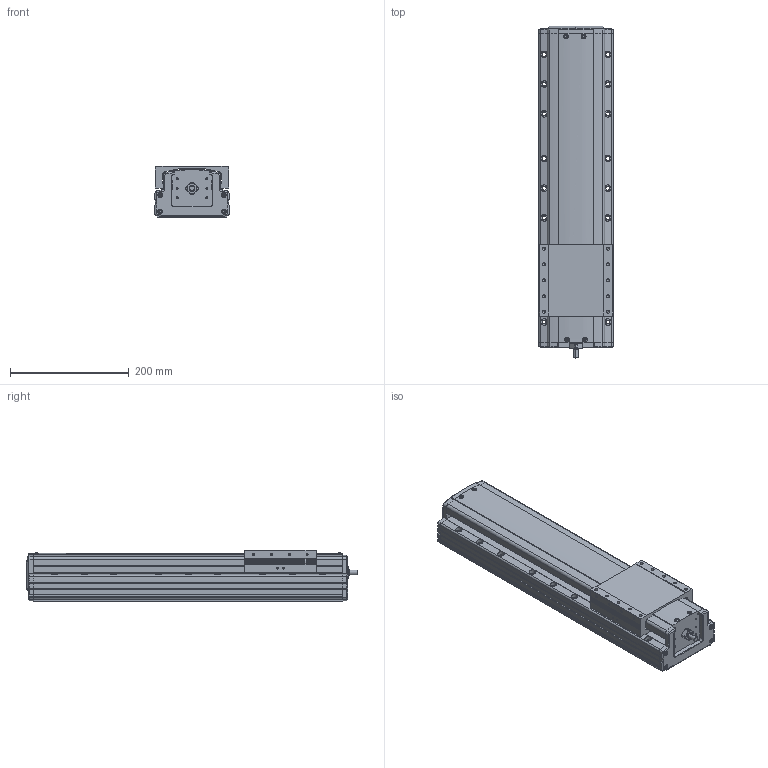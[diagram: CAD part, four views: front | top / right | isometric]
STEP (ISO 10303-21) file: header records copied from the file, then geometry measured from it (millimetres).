
FILE_DESCRIPTION(('STEP AP214'),'1');
FILE_NAME('Z:/Web/3D/PSA125/STP/PSA125-300 (3D)/PSA125ㅁㅁ-300.stp','2014-06-22T23:31:23',(' '),(' '),'Spatial InterOp 3D',' ',' ');
FILE_SCHEMA(('automotive_design'));
Length unit declared in the file: millimetre
Products named in the file (18): 스크루 : Round - M4.0 x 10.0; RRCV-PA120; SLIDE; BASE; FRCV-PA120-1(기준 뿔 제거); RR1500; 스크루 : Round - M4.0 x 6.0; 너트 : Square - M10.0 x 220.7419
Bounding box: 125 x 558.1 x 86 mm (x, y, z)
Volume: 4560798.6 mm3; surface area: 411084.2 mm2
Topology: 18 solids, 18 shells, 1846 faces, 4981 edges, 3174 vertices
Faces by surface type: plane 1010, cylinder 552, cone 196, sphere 32, bspline 31, torus 25
Entity records: 74355 total; most frequent: CARTESIAN_POINT 12679, DIRECTION 9755, ORIENTED_EDGE 9726, EDGE_CURVE 4863, LINE 3309, VECTOR 3309, AXIS2_PLACEMENT_3D 3223, VERTEX_POINT 3174
